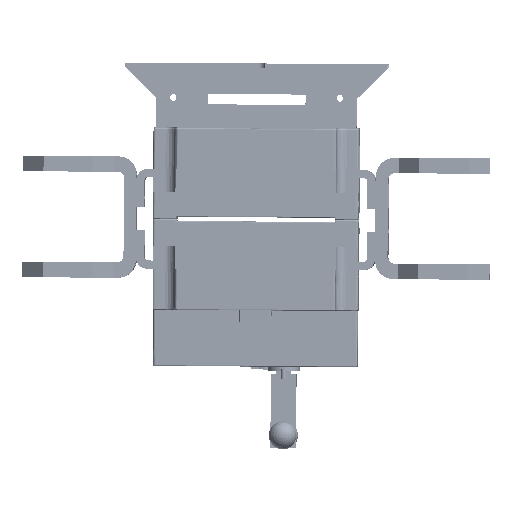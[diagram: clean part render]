
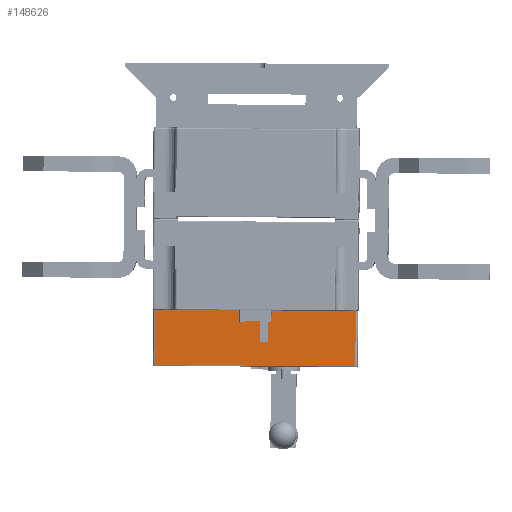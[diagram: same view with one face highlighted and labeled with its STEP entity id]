
A CAD part, left-side view. The second image highlights one B-rep face of the part: STEP entity #148626.
In plain terms, the highlighted planar face has unit normal (-1, 0.003, -0.005) as drawn and (-1, 0, 0.005) by its records, which use the part's own axes.
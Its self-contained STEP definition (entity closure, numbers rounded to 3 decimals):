
#99 = ORIENTED_EDGE ( 'NONE', *, *, #130050, .T. ) ;
#3035 = ORIENTED_EDGE ( 'NONE', *, *, #48053, .F. ) ;
#4266 = VERTEX_POINT ( 'NONE', #41204 ) ;
#5144 = LINE ( 'NONE', #72415, #91696 ) ;
#6659 = CARTESIAN_POINT ( 'NONE',  ( -66.332, 69.966, -0.993 ) ) ;
#12599 = CARTESIAN_POINT ( 'NONE',  ( -66.626, 70.26, -54.591 ) ) ;
#14601 = LINE ( 'NONE', #124877, #104321 ) ;
#22015 = VECTOR ( 'NONE', #68155, 1000. ) ;
#22860 = ORIENTED_EDGE ( 'NONE', *, *, #114654, .F. ) ;
#23930 = ORIENTED_EDGE ( 'NONE', *, *, #136403, .F. ) ;
#27035 = VERTEX_POINT ( 'NONE', #119685 ) ;
#31419 = VERTEX_POINT ( 'NONE', #165348 ) ;
#33552 = DIRECTION ( 'NONE',  ( 0., -1., 0. ) ) ;
#34050 = VECTOR ( 'NONE', #154050, 1000. ) ;
#34988 = VECTOR ( 'NONE', #33552, 1000. ) ;
#37695 = LINE ( 'NONE', #12599, #22015 ) ;
#41204 = CARTESIAN_POINT ( 'NONE',  ( -66.626, -22.904, -54.591 ) ) ;
#42769 = EDGE_CURVE ( 'NONE', #99524, #31419, #174355, .T. ) ;
#48053 = EDGE_CURVE ( 'NONE', #27035, #4266, #59932, .T. ) ;
#50292 = CARTESIAN_POINT ( 'NONE',  ( -66.626, -14.92, -54.591 ) ) ;
#54724 = CARTESIAN_POINT ( 'NONE',  ( -66.46, -22.904, -24.351 ) ) ;
#55048 = ORIENTED_EDGE ( 'NONE', *, *, #88518, .F. ) ;
#58388 = ORIENTED_EDGE ( 'NONE', *, *, #129677, .F. ) ;
#59932 = LINE ( 'NONE', #61700, #34050 ) ;
#61700 = CARTESIAN_POINT ( 'NONE',  ( -66.626, -124.751, -54.591 ) ) ;
#63764 = LINE ( 'NONE', #50292, #92677 ) ;
#64518 = EDGE_LOOP ( 'NONE', ( #3035, #130684, #22860, #23930, #58388, #157049, #55048, #99 ) ) ;
#68155 = DIRECTION ( 'NONE',  ( 0.005, -0.005, 1. ) ) ;
#68218 = VERTEX_POINT ( 'NONE', #125434 ) ;
#69273 = DIRECTION ( 'NONE',  ( -0.005, -0.005, -1. ) ) ;
#70642 = VERTEX_POINT ( 'NONE', #168214 ) ;
#72415 = CARTESIAN_POINT ( 'NONE',  ( -66.46, -22.904, -24.351 ) ) ;
#80223 = VECTOR ( 'NONE', #131412, 1000. ) ;
#88518 = EDGE_CURVE ( 'NONE', #173991, #31419, #5144, .T. ) ;
#91696 = VECTOR ( 'NONE', #117190, 1000. ) ;
#92677 = VECTOR ( 'NONE', #103231, 1000. ) ;
#94695 = DIRECTION ( 'NONE',  ( 0., 1., 0. ) ) ;
#99524 = VERTEX_POINT ( 'NONE', #145849 ) ;
#103231 = DIRECTION ( 'NONE',  ( 0., 1., 0. ) ) ;
#104321 = VECTOR ( 'NONE', #69273, 1000. ) ;
#108122 = DIRECTION ( 'NONE',  ( -1., 0., 0.005 ) ) ;
#109403 = DIRECTION ( 'NONE',  ( -0.005, 0., -1. ) ) ;
#111519 = AXIS2_PLACEMENT_3D ( 'NONE', #161904, #108122, #94695 ) ;
#114654 = EDGE_CURVE ( 'NONE', #68218, #169926, #169825, .T. ) ;
#117190 = DIRECTION ( 'NONE',  ( 0., 1., 0. ) ) ;
#118944 = PLANE ( 'NONE',  #111519 ) ;
#119685 = CARTESIAN_POINT ( 'NONE',  ( -66.626, -124.751, -54.591 ) ) ;
#120671 = CARTESIAN_POINT ( 'NONE',  ( -66.46, -22.904, -24.351 ) ) ;
#123725 = CARTESIAN_POINT ( 'NONE',  ( -66.332, -124.457, -0.993 ) ) ;
#124877 = CARTESIAN_POINT ( 'NONE',  ( -66.332, -124.457, -0.993 ) ) ;
#125434 = CARTESIAN_POINT ( 'NONE',  ( -66.332, 69.966, -0.993 ) ) ;
#127036 = VECTOR ( 'NONE', #109403, 1000. ) ;
#129677 = EDGE_CURVE ( 'NONE', #99524, #70642, #63764, .T. ) ;
#130050 = EDGE_CURVE ( 'NONE', #173991, #4266, #135419, .T. ) ;
#130684 = ORIENTED_EDGE ( 'NONE', *, *, #132264, .F. ) ;
#131412 = DIRECTION ( 'NONE',  ( 0.005, 0., 1. ) ) ;
#132264 = EDGE_CURVE ( 'NONE', #169926, #27035, #14601, .T. ) ;
#132285 = CARTESIAN_POINT ( 'NONE',  ( -66.626, -14.92, -54.591 ) ) ;
#133261 = FACE_OUTER_BOUND ( 'NONE', #64518, .T. ) ;
#135419 = LINE ( 'NONE', #54724, #127036 ) ;
#136403 = EDGE_CURVE ( 'NONE', #70642, #68218, #37695, .T. ) ;
#145849 = CARTESIAN_POINT ( 'NONE',  ( -66.626, -14.92, -54.591 ) ) ;
#148626 = ADVANCED_FACE ( 'NONE', ( #133261 ), #118944, .T. ) ;
#154050 = DIRECTION ( 'NONE',  ( 0., 1., 0. ) ) ;
#157049 = ORIENTED_EDGE ( 'NONE', *, *, #42769, .T. ) ;
#161904 = CARTESIAN_POINT ( 'NONE',  ( -66.626, -27.246, -54.591 ) ) ;
#165348 = CARTESIAN_POINT ( 'NONE',  ( -66.46, -14.92, -24.351 ) ) ;
#168214 = CARTESIAN_POINT ( 'NONE',  ( -66.626, 70.26, -54.591 ) ) ;
#169825 = LINE ( 'NONE', #6659, #34988 ) ;
#169926 = VERTEX_POINT ( 'NONE', #123725 ) ;
#173991 = VERTEX_POINT ( 'NONE', #120671 ) ;
#174355 = LINE ( 'NONE', #132285, #80223 ) ;
